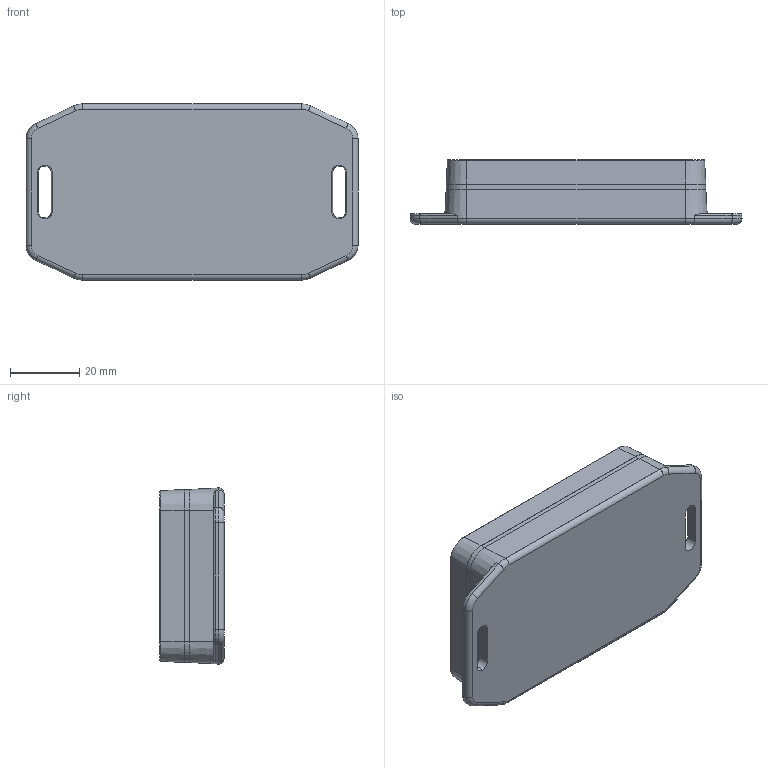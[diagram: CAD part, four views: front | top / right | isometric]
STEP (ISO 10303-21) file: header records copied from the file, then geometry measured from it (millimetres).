
FILE_DESCRIPTION (( 'STEP AP203' ), '1' );
FILE_NAME ('PF-5075-19.STEP', '2021-11-18T08:29:08', ( '' ), ( '' ), 'SwSTEP 2.0', 'SolidWorks 2021', '' );
FILE_SCHEMA (( 'CONFIG_CONTROL_DESIGN' ));
Length unit declared in the file: millimetre
Products named in the file (1): PF-5075-19
Bounding box: 95.88 x 18.5 x 50.89 mm (x, y, z)
Volume: 33805.1 mm3; surface area: 30403.5 mm2
Topology: 3 solids, 3 shells, 356 faces, 880 edges, 576 vertices
Faces by surface type: cone 140, plane 124, cylinder 76, torus 16
Entity records: 10873 total; most frequent: DIRECTION 2038, CARTESIAN_POINT 1869, ORIENTED_EDGE 1760, EDGE_CURVE 880, AXIS2_PLACEMENT_3D 813, VERTEX_POINT 576, CIRCLE 456, EDGE_LOOP 424
